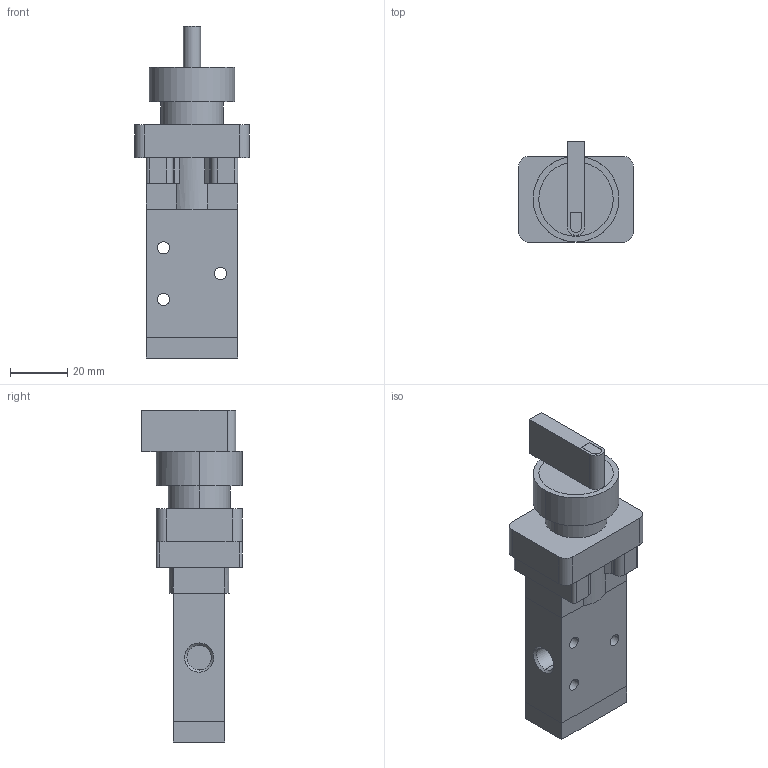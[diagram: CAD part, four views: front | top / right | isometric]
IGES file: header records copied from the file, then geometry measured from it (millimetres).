
Global section: file name: No Iges File Name specified; native system: AutoDesk Inventor R11.0; preprocessor: AutoDesk Inventor Iges Exporter R11.0; author: No Author specified; organization: No Organization specified; date: 20061219.113903; units: millimetre
Bounding box: 40 x 35.01 x 115.99 mm (x, y, z)
Volume: 68481.7 mm3; surface area: 16024.8 mm2
Topology: 1 solids, 1 shells, 100 faces, 260 edges, 170 vertices
Faces by surface type: plane 54, cylinder 19, bspline 15, revolution 12
